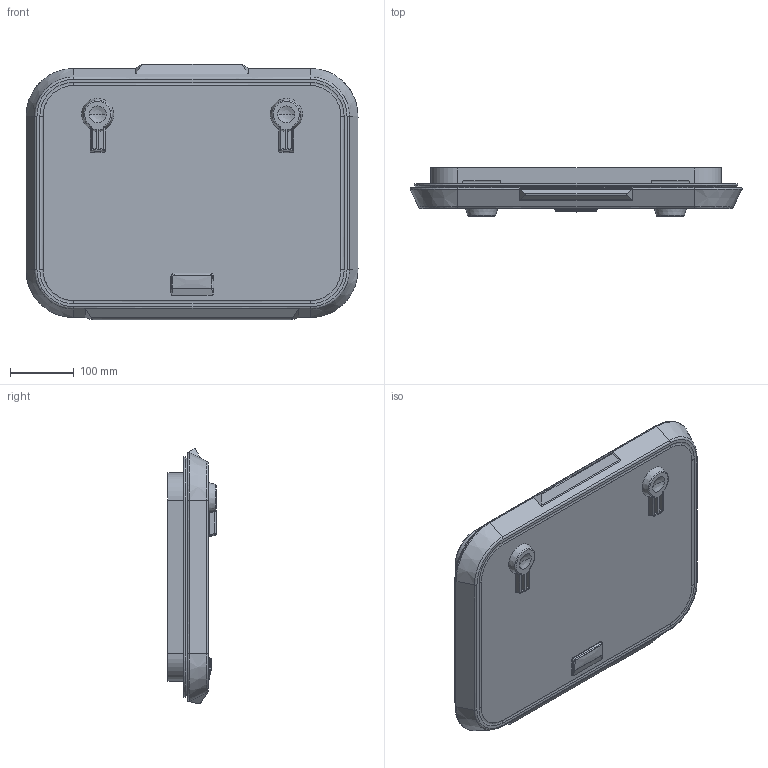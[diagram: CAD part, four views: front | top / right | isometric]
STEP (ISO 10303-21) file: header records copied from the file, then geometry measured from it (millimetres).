
FILE_DESCRIPTION((''),'2;1');
FILE_NAME('LEWMAR_HATCH_OCEAN_30_FLANGE_ASM','2008-02-21T',('skennedy'),(''),'PRO/ENGINEER BY PARAMETRIC TECHNOLOGY CORPORATION, 2007030','PRO/ENGINEER BY PARAMETRIC TECHNOLOGY CORPORATION, 2007030','');
FILE_SCHEMA(('CONFIG_CONTROL_DESIGN'));
Length unit declared in the file: millimetre
Products named in the file (6): OCEAN_ACRYLIC_30; OCEAN_LARGE_HINGE_LEVER_1; FRAME_30_FLANGE; OCEAN_LARGE_HANDLE_1; OCEAN_LARGE_HANDLE_2; LEWMAR_HATCH_OCEAN_30_FLANGE_ASM
Assembly tree (5 placements, depth 2):
  LEWMAR_HATCH_OCEAN_30_FLANGE_ASM
    OCEAN_ACRYLIC_30
    OCEAN_LARGE_HINGE_LEVER_1
    FRAME_30_FLANGE
    OCEAN_LARGE_HANDLE_1
    OCEAN_LARGE_HANDLE_2
Bounding box: 520.98 x 75.5 x 400.38 mm (x, y, z)
Volume: 1997339 mm3; surface area: 788138 mm2
Topology: 6 solids, 7 shells, 759 faces, 1860 edges, 1124 vertices
Faces by surface type: bspline 271, plane 240, cylinder 154, cone 33, torus 32, sphere 22, extrusion 7
Entity records: 31059 total; most frequent: CARTESIAN_POINT 14743, ORIENTED_EDGE 3712, DIRECTION 2735, EDGE_CURVE 1856, VERTEX_POINT 1124, AXIS2_PLACEMENT_3D 926, VECTOR 883, LINE 876
